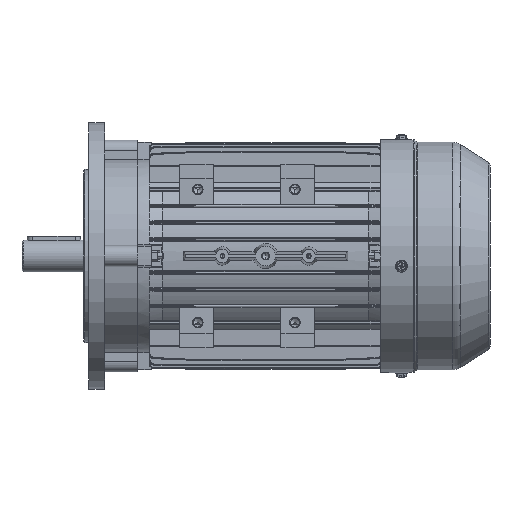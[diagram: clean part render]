
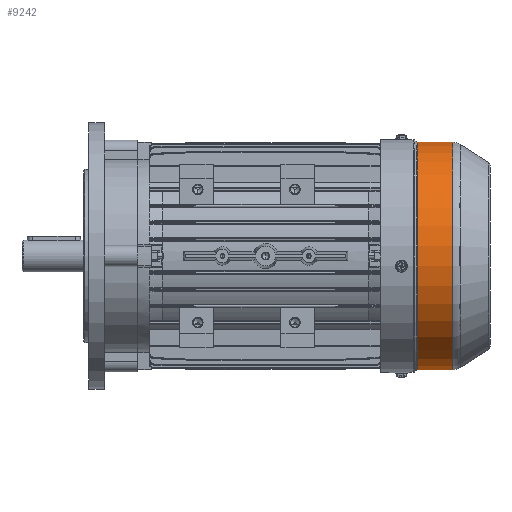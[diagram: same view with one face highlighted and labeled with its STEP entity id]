
A CAD part, front view. The second image highlights one B-rep face of the part: STEP entity #9242.
In plain terms, the highlighted cylindrical face has radius 85.75 mm (diameter 171.5 mm), a partial arc.
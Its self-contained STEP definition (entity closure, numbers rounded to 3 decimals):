
#2767 = CARTESIAN_POINT ( 'NONE',  ( -54.056, 0., 0. ) ) ;
#8441 = CARTESIAN_POINT ( 'NONE',  ( -54.056, 0., -85.75 ) ) ;
#8484 = DIRECTION ( 'NONE',  ( -1., 0., 0. ) ) ;
#9242 = ADVANCED_FACE ( 'NONE', ( #63517 ), #62028, .T. ) ;
#20958 = DIRECTION ( 'NONE',  ( 0., 0., 1. ) ) ;
#21380 = DIRECTION ( 'NONE',  ( -1., 0., 0. ) ) ;
#25848 = EDGE_LOOP ( 'NONE', ( #109627, #30909, #82114, #32492 ) ) ;
#25915 = EDGE_CURVE ( 'NONE', #112664, #90263, #77755, .T. ) ;
#26338 = CARTESIAN_POINT ( 'NONE',  ( -80., 0., 85.75 ) ) ;
#28774 = AXIS2_PLACEMENT_3D ( 'NONE', #2767, #119951, #81275 ) ;
#30909 = ORIENTED_EDGE ( 'NONE', *, *, #63961, .T. ) ;
#32313 = AXIS2_PLACEMENT_3D ( 'NONE', #49497, #21380, #20958 ) ;
#32492 = ORIENTED_EDGE ( 'NONE', *, *, #114090, .T. ) ;
#35473 = VERTEX_POINT ( 'NONE', #76861 ) ;
#35576 = VECTOR ( 'NONE', #8484, 1000. ) ;
#49497 = CARTESIAN_POINT ( 'NONE',  ( -27.414, 0., 0. ) ) ;
#52866 = CARTESIAN_POINT ( 'NONE',  ( -27.414, 0., -85.75 ) ) ;
#59501 = VERTEX_POINT ( 'NONE', #97660 ) ;
#62028 = CYLINDRICAL_SURFACE ( 'NONE', #115172, 85.75 ) ;
#63517 = FACE_OUTER_BOUND ( 'NONE', #25848, .T. ) ;
#63961 = EDGE_CURVE ( 'NONE', #112664, #35473, #84681, .T. ) ;
#74835 = DIRECTION ( 'NONE',  ( 0., 0., 1. ) ) ;
#75843 = EDGE_CURVE ( 'NONE', #35473, #59501, #114553, .T. ) ;
#76833 = DIRECTION ( 'NONE',  ( -1., 0., 0. ) ) ;
#76861 = CARTESIAN_POINT ( 'NONE',  ( -27.414, 0., 85.75 ) ) ;
#77755 = LINE ( 'NONE', #95991, #88365 ) ;
#81275 = DIRECTION ( 'NONE',  ( 0., 0., -1. ) ) ;
#82114 = ORIENTED_EDGE ( 'NONE', *, *, #75843, .T. ) ;
#84583 = CARTESIAN_POINT ( 'NONE',  ( -80., 0., 0. ) ) ;
#84681 = CIRCLE ( 'NONE', #32313, 85.75 ) ;
#88365 = VECTOR ( 'NONE', #76833, 1000. ) ;
#90263 = VERTEX_POINT ( 'NONE', #8441 ) ;
#95991 = CARTESIAN_POINT ( 'NONE',  ( -80., 0., -85.75 ) ) ;
#97660 = CARTESIAN_POINT ( 'NONE',  ( -54.056, 0., 85.75 ) ) ;
#102939 = DIRECTION ( 'NONE',  ( -1., 0., 0. ) ) ;
#109627 = ORIENTED_EDGE ( 'NONE', *, *, #25915, .F. ) ;
#112664 = VERTEX_POINT ( 'NONE', #52866 ) ;
#114090 = EDGE_CURVE ( 'NONE', #59501, #90263, #122754, .T. ) ;
#114553 = LINE ( 'NONE', #26338, #35576 ) ;
#115172 = AXIS2_PLACEMENT_3D ( 'NONE', #84583, #102939, #74835 ) ;
#119951 = DIRECTION ( 'NONE',  ( 1., 0., 0. ) ) ;
#122754 = CIRCLE ( 'NONE', #28774, 85.75 ) ;
